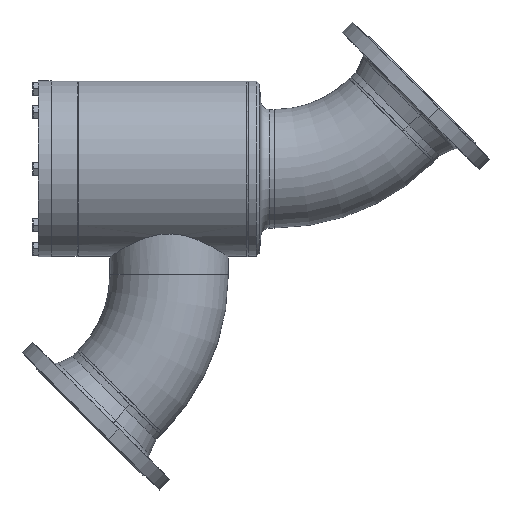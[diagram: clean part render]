
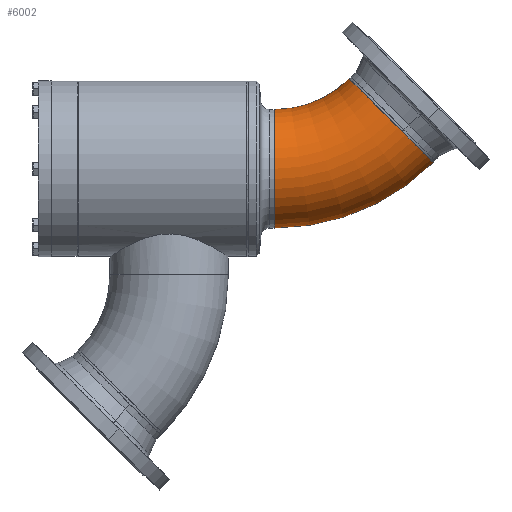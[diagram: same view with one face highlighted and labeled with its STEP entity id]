
A CAD part, left-side view. The second image highlights one B-rep face of the part: STEP entity #6002.
In plain terms, the highlighted toroidal (fillet/blend) face has major radius 305 mm and minor radius 109.55 mm.
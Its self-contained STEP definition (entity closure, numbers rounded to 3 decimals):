
#2021 = CARTESIAN_POINT ( 'NONE',  ( 138.204, -166.796, 0. ) ) ;
#2336 = CARTESIAN_POINT ( 'NONE',  ( 293.131, -11.869, 0. ) ) ;
#2623 = CIRCLE ( 'NONE', #2624, 109.55 ) ;
#2624 = AXIS2_PLACEMENT_3D ( 'NONE', #2625, #2626, #2627 ) ;
#2625 = CARTESIAN_POINT ( 'NONE',  ( 215.668, -89.332, 0. ) ) ;
#2626 = DIRECTION ( 'NONE',  ( 0.707, -0.707, 0. ) ) ;
#2627 = DIRECTION ( 'NONE',  ( 0., 0., -1. ) ) ;
#4205 = FACE_OUTER_BOUND ( 'NONE', #7633, .T. ) ;
#4206 = TOROIDAL_SURFACE ( 'NONE', #4207, 305., 109.55 ) ;
#4207 = AXIS2_PLACEMENT_3D ( 'NONE', #4208, #4209, #4210 ) ;
#4208 = CARTESIAN_POINT ( 'NONE',  ( 0., -305., 0. ) ) ;
#4209 = DIRECTION ( 'NONE',  ( 0., 0., 1. ) ) ;
#4210 = DIRECTION ( 'NONE',  ( 1., 0., 0. ) ) ;
#6002 = ADVANCED_FACE ( 'NONE', ( #4205 ), #4206, .T. ) ;
#7140 = EDGE_CURVE ( 'NONE', #7458, #7215, #8832, .T. ) ;
#7160 = ORIENTED_EDGE ( 'NONE', *, *, #7140, .F. ) ;
#7215 = VERTEX_POINT ( 'NONE', #9471 ) ;
#7241 = EDGE_CURVE ( 'NONE', #7339, #7215, #9674, .T. ) ;
#7281 = ORIENTED_EDGE ( 'NONE', *, *, #7241, .T. ) ;
#7339 = VERTEX_POINT ( 'NONE', #10679 ) ;
#7368 = EDGE_CURVE ( 'NONE', #7486, #7339, #11201, .T. ) ;
#7407 = ORIENTED_EDGE ( 'NONE', *, *, #7368, .T. ) ;
#7458 = VERTEX_POINT ( 'NONE', #2021 ) ;
#7486 = VERTEX_POINT ( 'NONE', #2336 ) ;
#7512 = EDGE_CURVE ( 'NONE', #7486, #7458, #2623, .T. ) ;
#7550 = ORIENTED_EDGE ( 'NONE', *, *, #7512, .F. ) ;
#7633 = EDGE_LOOP ( 'NONE', ( #7550, #7407, #7281, #7160 ) ) ;
#8832 = CIRCLE ( 'NONE', #8833, 195.45 ) ;
#8833 = AXIS2_PLACEMENT_3D ( 'NONE', #8834, #8835, #8836 ) ;
#8834 = CARTESIAN_POINT ( 'NONE',  ( 0., -305., 0. ) ) ;
#8835 = DIRECTION ( 'NONE',  ( 0., 0., 1. ) ) ;
#8836 = DIRECTION ( 'NONE',  ( 1., 0., 0. ) ) ;
#9471 = CARTESIAN_POINT ( 'NONE',  ( 0., -109.55, 0. ) ) ;
#9674 = CIRCLE ( 'NONE', #9675, 109.55 ) ;
#9675 = AXIS2_PLACEMENT_3D ( 'NONE', #9676, #9677, #9678 ) ;
#9676 = CARTESIAN_POINT ( 'NONE',  ( 0., 0., 0. ) ) ;
#9677 = DIRECTION ( 'NONE',  ( 1., 0., 0. ) ) ;
#9678 = DIRECTION ( 'NONE',  ( 0., 0., -1. ) ) ;
#10679 = CARTESIAN_POINT ( 'NONE',  ( 0., 109.55, 0. ) ) ;
#11201 = CIRCLE ( 'NONE', #11202, 414.55 ) ;
#11202 = AXIS2_PLACEMENT_3D ( 'NONE', #11203, #11204, #11205 ) ;
#11203 = CARTESIAN_POINT ( 'NONE',  ( 0., -305., 0. ) ) ;
#11204 = DIRECTION ( 'NONE',  ( 0., 0., 1. ) ) ;
#11205 = DIRECTION ( 'NONE',  ( 1., 0., 0. ) ) ;
